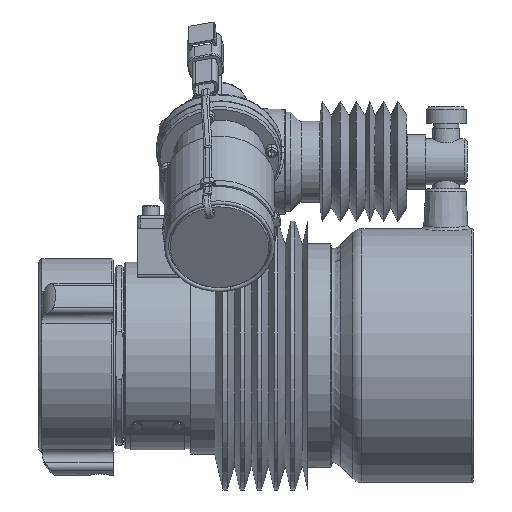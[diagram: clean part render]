
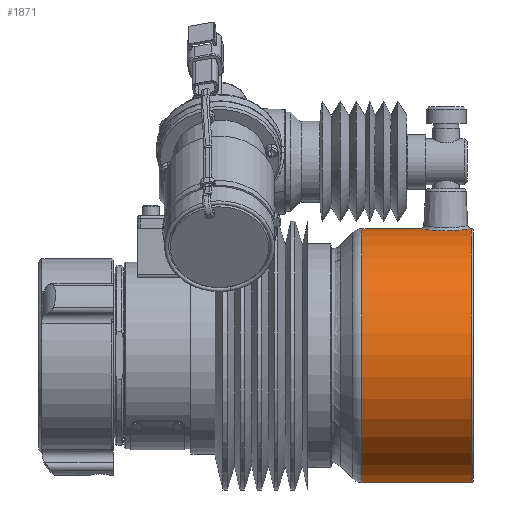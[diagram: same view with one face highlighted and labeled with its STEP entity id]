
A CAD part, top view. The second image highlights one B-rep face of the part: STEP entity #1871.
In plain terms, the highlighted cylindrical face has radius 60.325 mm (diameter 120.65 mm), a partial arc.
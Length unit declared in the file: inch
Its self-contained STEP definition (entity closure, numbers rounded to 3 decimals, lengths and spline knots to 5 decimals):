
#895=CARTESIAN_POINT('',(-0.76325,-2.375,0.));
#905=CARTESIAN_POINT('',(-0.82525,-2.375,0.));
#912=CARTESIAN_POINT('',(1.1642,2.375,0.));
#929=CARTESIAN_POINT('',(0.21602,2.375,
0.));
#1106=DIRECTION('',(1.,0.,0.));
#1107=VECTOR('',#1106,0.05295);
#1108=CARTESIAN_POINT('',(-0.8782,-2.375,0.));
#1109=LINE('',#1108,#1107);
#1110=DIRECTION('',(-1.,0.,0.));
#1111=VECTOR('',#1110,1.09422);
#1112=CARTESIAN_POINT('',(0.21602,2.375,
0.));
#1113=LINE('',#1112,#1111);
#1114=CARTESIAN_POINT('',(0.21602,2.375,
0.));
#1115=CARTESIAN_POINT('',(0.21602,2.375,
0.0318));
#1116=CARTESIAN_POINT('',(0.2225,2.37375,
0.09432));
#1117=CARTESIAN_POINT('',(0.25242,2.36819,
0.18703));
#1118=CARTESIAN_POINT('',(0.30138,2.35987,
0.27165));
#1119=CARTESIAN_POINT('',(0.36816,2.35006,
0.34551));
#1120=CARTESIAN_POINT('',(0.44956,2.34055,
0.40407));
#1121=CARTESIAN_POINT('',(0.54159,2.3331,
0.44452));
#1122=CARTESIAN_POINT('',(0.63982,2.32902,
0.46508));
#1123=CARTESIAN_POINT('',(0.74005,2.32901,
0.46511));
#1124=CARTESIAN_POINT('',(0.83829,2.33307,
0.44462));
#1125=CARTESIAN_POINT('',(0.93034,2.34052,
0.40426));
#1126=CARTESIAN_POINT('',(1.01183,2.35003,0.34571));
#1127=CARTESIAN_POINT('',(1.07859,2.35983,0.27201));
#1128=CARTESIAN_POINT('',(1.12771,2.36818,0.18722));
#1129=CARTESIAN_POINT('',(1.15761,2.37372,0.09482));
#1130=CARTESIAN_POINT('',(1.16419,2.375,0.032));
#1131=CARTESIAN_POINT('',(1.1642,2.375,
0.));
#1133=DIRECTION('',(-1.,0.,0.));
#1134=VECTOR('',#1133,0.0103);
#1135=CARTESIAN_POINT('',(1.1745,2.375,0.));
#1136=LINE('',#1135,#1134);
#1137=CARTESIAN_POINT('',(1.1745,0.,0.));
#1138=DIRECTION('',(-1.,0.,0.));
#1139=DIRECTION('',(0.,-1.,0.));
#1140=AXIS2_PLACEMENT_3D('',#1137,#1138,#1139);
#1142=DIRECTION('',(1.,0.,0.));
#1143=VECTOR('',#1142,1.93775);
#1144=CARTESIAN_POINT('',(-0.76325,-2.375,0.));
#1145=LINE('',#1144,#1143);
#1146=CARTESIAN_POINT('',(-0.82525,-2.375,0.));
#1147=CARTESIAN_POINT('',(-0.82525,-2.375,0.00422));
#1148=CARTESIAN_POINT('',(-0.82369,-2.37498,
0.012));
#1149=CARTESIAN_POINT('',(-0.81667,-2.3749,
0.02258));
#1150=CARTESIAN_POINT('',(-0.8065,-2.37482,
0.02934));
#1151=CARTESIAN_POINT('',(-0.79415,-2.37479,
0.03182));
#1152=CARTESIAN_POINT('',(-0.78209,-2.37482,
0.02937));
#1153=CARTESIAN_POINT('',(-0.77174,-2.3749,
0.02252));
#1154=CARTESIAN_POINT('',(-0.76483,-2.37498,
0.012));
#1155=CARTESIAN_POINT('',(-0.76325,-2.375,0.00422));
#1156=CARTESIAN_POINT('',(-0.76325,-2.375,0.));
#1163=CARTESIAN_POINT('',(-0.8782,0.,0.));
#1164=DIRECTION('',(-1.,0.,0.));
#1165=DIRECTION('',(0.,-1.,0.));
#1166=AXIS2_PLACEMENT_3D('',#1163,#1164,#1165);
#1506=CARTESIAN_POINT('',(-0.8782,-2.375,0.));
#1507=CARTESIAN_POINT('',(-0.8782,2.375,0.));
#1508=VERTEX_POINT('',#1506);
#1509=VERTEX_POINT('',#1507);
#1522=VERTEX_POINT('',#912);
#1523=VERTEX_POINT('',#929);
#1559=CARTESIAN_POINT('',(1.1745,-2.375,0.));
#1560=CARTESIAN_POINT('',(1.1745,2.375,0.));
#1561=VERTEX_POINT('',#1559);
#1562=VERTEX_POINT('',#1560);
#1579=VERTEX_POINT('',#895);
#1580=VERTEX_POINT('',#905);
#1854=CARTESIAN_POINT('',(-2.55597,0.,0.));
#1855=DIRECTION('',(1.,0.,0.));
#1856=DIRECTION('',(0.,1.,0.));
#1857=AXIS2_PLACEMENT_3D('',#1854,#1855,#1856);
#1858=CYLINDRICAL_SURFACE('',#1857,2.375);
#1859=ORIENTED_EDGE('',*,*,#1610,.F.);
#1861=ORIENTED_EDGE('',*,*,#1860,.T.);
#1862=ORIENTED_EDGE('',*,*,#1606,.F.);
#1864=ORIENTED_EDGE('',*,*,#1863,.T.);
#1865=ORIENTED_EDGE('',*,*,#1602,.F.);
#1866=ORIENTED_EDGE('',*,*,#1844,.F.);
#1867=ORIENTED_EDGE('',*,*,#1598,.F.);
#1868=ORIENTED_EDGE('',*,*,#1639,.F.);
#1869=EDGE_LOOP('',(#1859,#1861,#1862,#1864,#1865,#1866,#1867,#1868));
#1870=FACE_OUTER_BOUND('',#1869,.F.);
#1132=B_SPLINE_CURVE_WITH_KNOTS('',3,(#1114,#1115,#1116,#1117,#1118,#1119,#1120,
#1121,#1122,#1123,#1124,#1125,#1126,#1127,#1128,#1129,#1130,#1131),
.UNSPECIFIED.,.F.,.F.,(4,1,1,1,1,1,1,1,1,1,1,1,1,1,1,4),(0.,0.06667,
0.13333,0.2,0.26667,0.33333,0.4,
0.46667,0.53333,0.6,0.66667,0.73333,
0.8,0.86667,0.93333,1.),.UNSPECIFIED.);
#1141=CIRCLE('',#1140,2.375);
#1157=B_SPLINE_CURVE_WITH_KNOTS('',3,(#1146,#1147,#1148,#1149,#1150,#1151,#1152,
#1153,#1154,#1155,#1156),.UNSPECIFIED.,.F.,.F.,(4,1,1,1,1,1,1,1,4),(0.,
0.125,0.25,0.375,0.5,0.625,0.75,0.875,1.),.UNSPECIFIED.);
#1167=CIRCLE('',#1166,2.375);
#1598=EDGE_CURVE('',#1579,#1561,#1145,.T.);
#1602=EDGE_CURVE('',#1562,#1522,#1136,.T.);
#1606=EDGE_CURVE('',#1523,#1509,#1113,.T.);
#1610=EDGE_CURVE('',#1508,#1580,#1109,.T.);
#1639=EDGE_CURVE('',#1580,#1579,#1157,.T.);
#1844=EDGE_CURVE('',#1561,#1562,#1141,.T.);
#1860=EDGE_CURVE('',#1508,#1509,#1167,.T.);
#1863=EDGE_CURVE('',#1523,#1522,#1132,.T.);
#1871=ADVANCED_FACE('',(#1870),#1858,.T.);
